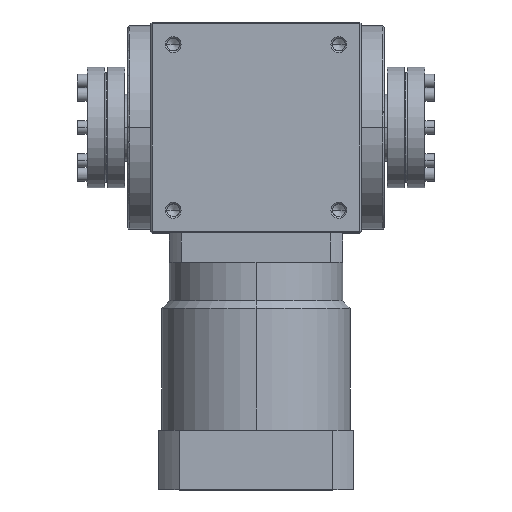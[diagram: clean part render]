
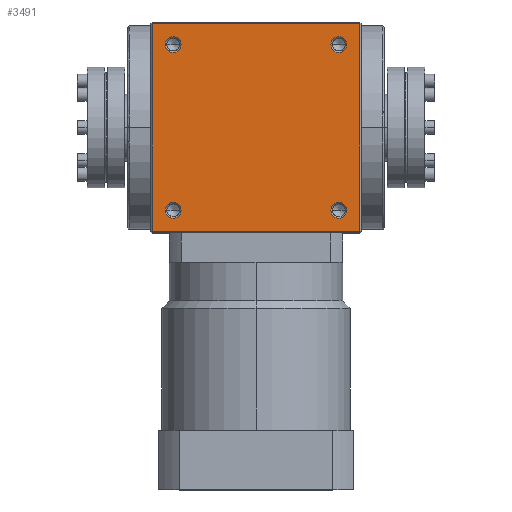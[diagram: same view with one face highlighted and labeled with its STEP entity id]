
A CAD part, top view. The second image highlights one B-rep face of the part: STEP entity #3491.
In plain terms, the highlighted planar face has unit normal (0, 0, 1).
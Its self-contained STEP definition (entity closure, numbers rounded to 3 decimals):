
#27 = DIRECTION ( 'NONE',  ( 0., 1., 0. ) ) ;
#61 = VERTEX_POINT ( 'NONE', #29445 ) ;
#171 = CARTESIAN_POINT ( 'NONE',  ( -69., 0., 70. ) ) ;
#291 = DIRECTION ( 'NONE',  ( 1., 0., 0. ) ) ;
#314 = DIRECTION ( 'NONE',  ( 0., 0., 1. ) ) ;
#346 = CARTESIAN_POINT ( 'NONE',  ( -55., -55., 70. ) ) ;
#709 = DIRECTION ( 'NONE',  ( 1., 0., 0. ) ) ;
#1388 = EDGE_LOOP ( 'NONE', ( #8404, #16069 ) ) ;
#1394 = VECTOR ( 'NONE', #25433, 1000. ) ;
#1410 = VERTEX_POINT ( 'NONE', #6651 ) ;
#1442 = ORIENTED_EDGE ( 'NONE', *, *, #25555, .F. ) ;
#1848 = ORIENTED_EDGE ( 'NONE', *, *, #19274, .T. ) ;
#1974 = ORIENTED_EDGE ( 'NONE', *, *, #30620, .F. ) ;
#2133 = AXIS2_PLACEMENT_3D ( 'NONE', #10020, #27151, #12486 ) ;
#2950 = VERTEX_POINT ( 'NONE', #8278 ) ;
#3183 = FACE_BOUND ( 'NONE', #1388, .T. ) ;
#3491 = ADVANCED_FACE ( 'NONE', ( #21006, #3183, #29890, #10050, #12641 ), #25244, .F. ) ;
#3685 = CARTESIAN_POINT ( 'NONE',  ( 49.75, 55., 70. ) ) ;
#3750 = ORIENTED_EDGE ( 'NONE', *, *, #29282, .F. ) ;
#5007 = VERTEX_POINT ( 'NONE', #23504 ) ;
#5729 = AXIS2_PLACEMENT_3D ( 'NONE', #21130, #6362, #23635 ) ;
#6003 = EDGE_LOOP ( 'NONE', ( #1974, #10018 ) ) ;
#6300 = EDGE_CURVE ( 'NONE', #22465, #23118, #8088, .T. ) ;
#6362 = DIRECTION ( 'NONE',  ( 0., 0., 1. ) ) ;
#6651 = CARTESIAN_POINT ( 'NONE',  ( -49.75, 55., 70. ) ) ;
#7847 = VECTOR ( 'NONE', #27, 1000. ) ;
#8025 = AXIS2_PLACEMENT_3D ( 'NONE', #29532, #14818, #31998 ) ;
#8088 = CIRCLE ( 'NONE', #14812, 5.25 ) ;
#8148 = VERTEX_POINT ( 'NONE', #29061 ) ;
#8278 = CARTESIAN_POINT ( 'NONE',  ( -60.25, -55., 70. ) ) ;
#8404 = ORIENTED_EDGE ( 'NONE', *, *, #6300, .F. ) ;
#8627 = AXIS2_PLACEMENT_3D ( 'NONE', #13275, #30435, #15742 ) ;
#8659 = LINE ( 'NONE', #171, #7847 ) ;
#9204 = CARTESIAN_POINT ( 'NONE',  ( 49.75, -55., 70. ) ) ;
#9728 = EDGE_CURVE ( 'NONE', #61, #2950, #15110, .T. ) ;
#10018 = ORIENTED_EDGE ( 'NONE', *, *, #31304, .F. ) ;
#10020 = CARTESIAN_POINT ( 'NONE',  ( 55., -55., 70. ) ) ;
#10050 = FACE_BOUND ( 'NONE', #6003, .T. ) ;
#10174 = EDGE_LOOP ( 'NONE', ( #21881, #1442 ) ) ;
#10466 = AXIS2_PLACEMENT_3D ( 'NONE', #346, #314, #291 ) ;
#11857 = DIRECTION ( 'NONE',  ( 0., 0., 1. ) ) ;
#12400 = EDGE_LOOP ( 'NONE', ( #3750, #12983, #1848, #17254 ) ) ;
#12432 = VERTEX_POINT ( 'NONE', #28828 ) ;
#12486 = DIRECTION ( 'NONE',  ( 1., 0., 0. ) ) ;
#12641 = FACE_OUTER_BOUND ( 'NONE', #12400, .T. ) ;
#12666 = CARTESIAN_POINT ( 'NONE',  ( 60.25, 55., 70. ) ) ;
#12699 = VERTEX_POINT ( 'NONE', #30360 ) ;
#12983 = ORIENTED_EDGE ( 'NONE', *, *, #19006, .F. ) ;
#13275 = CARTESIAN_POINT ( 'NONE',  ( -55., 55., 70. ) ) ;
#13925 = EDGE_CURVE ( 'NONE', #25039, #12432, #8659, .T. ) ;
#14005 = CIRCLE ( 'NONE', #8025, 5.25 ) ;
#14743 = LINE ( 'NONE', #25065, #1394 ) ;
#14770 = LINE ( 'NONE', #29941, #27056 ) ;
#14812 = AXIS2_PLACEMENT_3D ( 'NONE', #24289, #24263, #24258 ) ;
#14818 = DIRECTION ( 'NONE',  ( 0., 0., 1. ) ) ;
#15110 = CIRCLE ( 'NONE', #10466, 5.25 ) ;
#15742 = DIRECTION ( 'NONE',  ( 1., 0., 0. ) ) ;
#15751 = DIRECTION ( 'NONE',  ( 0., 0., 1. ) ) ;
#15952 = VERTEX_POINT ( 'NONE', #19638 ) ;
#16069 = ORIENTED_EDGE ( 'NONE', *, *, #28551, .F. ) ;
#16086 = CARTESIAN_POINT ( 'NONE',  ( -69., -69., 70. ) ) ;
#16321 = LINE ( 'NONE', #23069, #28587 ) ;
#17254 = ORIENTED_EDGE ( 'NONE', *, *, #13925, .F. ) ;
#18009 = CIRCLE ( 'NONE', #5729, 5.25 ) ;
#18377 = VERTEX_POINT ( 'NONE', #9204 ) ;
#19006 = EDGE_CURVE ( 'NONE', #8148, #12699, #14770, .T. ) ;
#19274 = EDGE_CURVE ( 'NONE', #8148, #12432, #14743, .T. ) ;
#19638 = CARTESIAN_POINT ( 'NONE',  ( -60.25, 55., 70. ) ) ;
#20294 = ORIENTED_EDGE ( 'NONE', *, *, #9728, .F. ) ;
#21006 = FACE_BOUND ( 'NONE', #10174, .T. ) ;
#21130 = CARTESIAN_POINT ( 'NONE',  ( -55., 55., 70. ) ) ;
#21881 = ORIENTED_EDGE ( 'NONE', *, *, #27937, .F. ) ;
#22117 = AXIS2_PLACEMENT_3D ( 'NONE', #28580, #29085, #29823 ) ;
#22465 = VERTEX_POINT ( 'NONE', #12666 ) ;
#23069 = CARTESIAN_POINT ( 'NONE',  ( 0., -69., 70. ) ) ;
#23118 = VERTEX_POINT ( 'NONE', #3685 ) ;
#23504 = CARTESIAN_POINT ( 'NONE',  ( 60.25, -55., 70. ) ) ;
#23635 = DIRECTION ( 'NONE',  ( 1., 0., 0. ) ) ;
#23963 = CIRCLE ( 'NONE', #2133, 5.25 ) ;
#24258 = DIRECTION ( 'NONE',  ( 1., 0., 0. ) ) ;
#24263 = DIRECTION ( 'NONE',  ( 0., 0., 1. ) ) ;
#24289 = CARTESIAN_POINT ( 'NONE',  ( 55., 55., 70. ) ) ;
#25039 = VERTEX_POINT ( 'NONE', #16086 ) ;
#25065 = CARTESIAN_POINT ( 'NONE',  ( 0., 69., 70. ) ) ;
#25244 = PLANE ( 'NONE',  #22117 ) ;
#25433 = DIRECTION ( 'NONE',  ( -1., 0., 0. ) ) ;
#25555 = EDGE_CURVE ( 'NONE', #15952, #1410, #18009, .T. ) ;
#25557 = DIRECTION ( 'NONE',  ( -1., 0., 0. ) ) ;
#26128 = ORIENTED_EDGE ( 'NONE', *, *, #29035, .F. ) ;
#26533 = CARTESIAN_POINT ( 'NONE',  ( 55., 55., 70. ) ) ;
#26798 = CIRCLE ( 'NONE', #8627, 5.25 ) ;
#26965 = AXIS2_PLACEMENT_3D ( 'NONE', #26533, #11857, #29024 ) ;
#27056 = VECTOR ( 'NONE', #30519, 1000. ) ;
#27151 = DIRECTION ( 'NONE',  ( 0., 0., 1. ) ) ;
#27937 = EDGE_CURVE ( 'NONE', #1410, #15952, #26798, .T. ) ;
#28551 = EDGE_CURVE ( 'NONE', #23118, #22465, #28676, .T. ) ;
#28580 = CARTESIAN_POINT ( 'NONE',  ( 0., 0., 70. ) ) ;
#28587 = VECTOR ( 'NONE', #25557, 1000. ) ;
#28676 = CIRCLE ( 'NONE', #26965, 5.25 ) ;
#28828 = CARTESIAN_POINT ( 'NONE',  ( -69., 69., 70. ) ) ;
#29024 = DIRECTION ( 'NONE',  ( 1., 0., 0. ) ) ;
#29035 = EDGE_CURVE ( 'NONE', #2950, #61, #14005, .T. ) ;
#29058 = EDGE_LOOP ( 'NONE', ( #20294, #26128 ) ) ;
#29061 = CARTESIAN_POINT ( 'NONE',  ( 69., 69., 70. ) ) ;
#29085 = DIRECTION ( 'NONE',  ( 0., 0., -1. ) ) ;
#29282 = EDGE_CURVE ( 'NONE', #12699, #25039, #16321, .T. ) ;
#29445 = CARTESIAN_POINT ( 'NONE',  ( -49.75, -55., 70. ) ) ;
#29532 = CARTESIAN_POINT ( 'NONE',  ( -55., -55., 70. ) ) ;
#29674 = CIRCLE ( 'NONE', #30591, 5.25 ) ;
#29823 = DIRECTION ( 'NONE',  ( -1., 0., 0. ) ) ;
#29890 = FACE_BOUND ( 'NONE', #29058, .T. ) ;
#29941 = CARTESIAN_POINT ( 'NONE',  ( 69., 0., 70. ) ) ;
#30360 = CARTESIAN_POINT ( 'NONE',  ( 69., -69., 70. ) ) ;
#30435 = DIRECTION ( 'NONE',  ( 0., 0., 1. ) ) ;
#30444 = CARTESIAN_POINT ( 'NONE',  ( 55., -55., 70. ) ) ;
#30519 = DIRECTION ( 'NONE',  ( 0., -1., 0. ) ) ;
#30591 = AXIS2_PLACEMENT_3D ( 'NONE', #30444, #15751, #709 ) ;
#30620 = EDGE_CURVE ( 'NONE', #5007, #18377, #23963, .T. ) ;
#31304 = EDGE_CURVE ( 'NONE', #18377, #5007, #29674, .T. ) ;
#31998 = DIRECTION ( 'NONE',  ( 1., 0., 0. ) ) ;
